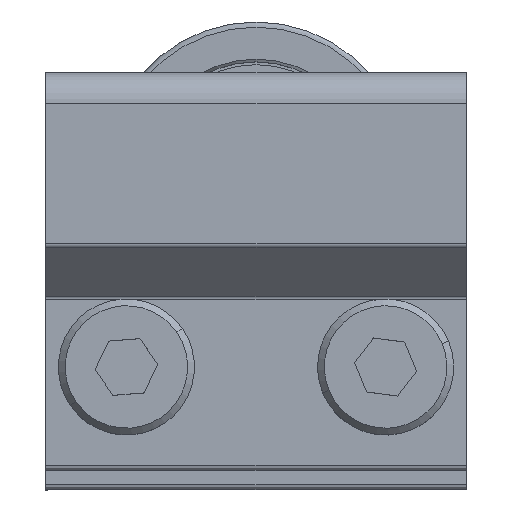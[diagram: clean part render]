
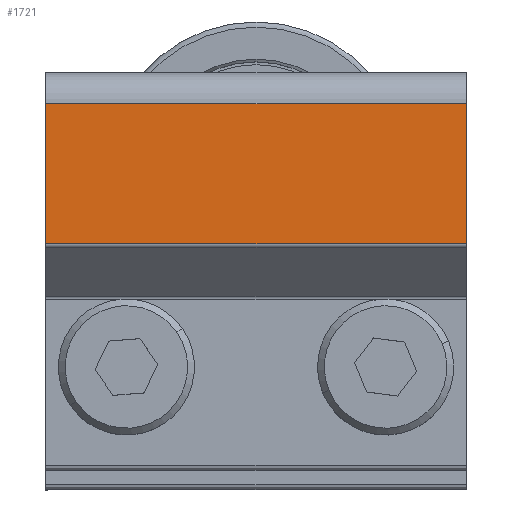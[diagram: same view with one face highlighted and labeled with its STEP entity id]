
A CAD part, top view. The second image highlights one B-rep face of the part: STEP entity #1721.
In plain terms, the highlighted planar face has unit normal (0, 0, 1) as drawn and (1, 0, 0) by its records, which use the part's own axes.
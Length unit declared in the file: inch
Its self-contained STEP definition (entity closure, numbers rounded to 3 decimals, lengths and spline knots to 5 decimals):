
#1217=DIRECTION('',(0.,0.,-1.));
#1218=VECTOR('',#1217,1.216);
#1219=CARTESIAN_POINT('',(0.375,0.763,0.608));
#1220=LINE('',#1219,#1218);
#1225=DIRECTION('',(0.,-1.,0.));
#1226=VECTOR('',#1225,0.40379);
#1227=CARTESIAN_POINT('',(0.375,0.763,-0.608));
#1228=LINE('',#1227,#1226);
#1306=DIRECTION('',(0.,-1.,0.));
#1307=VECTOR('',#1306,0.40379);
#1308=CARTESIAN_POINT('',(0.375,0.763,0.608));
#1309=LINE('',#1308,#1307);
#1375=DIRECTION('',(0.,0.,1.));
#1376=VECTOR('',#1375,1.216);
#1377=CARTESIAN_POINT('',(0.375,0.35921,-0.608));
#1378=LINE('',#1377,#1376);
#1565=CARTESIAN_POINT('',(0.375,0.763,0.608));
#1566=CARTESIAN_POINT('',(0.375,0.35921,0.608));
#1567=VERTEX_POINT('',#1565);
#1568=VERTEX_POINT('',#1566);
#1608=CARTESIAN_POINT('',(0.375,0.763,-0.608));
#1610=VERTEX_POINT('',#1608);
#1639=CARTESIAN_POINT('',(0.375,0.35921,-0.608));
#1640=VERTEX_POINT('',#1639);
#1708=CARTESIAN_POINT('',(0.375,0.763,0.608));
#1709=DIRECTION('',(-1.,0.,0.));
#1710=DIRECTION('',(0.,-1.,0.));
#1711=AXIS2_PLACEMENT_3D('',#1708,#1709,#1710);
#1712=PLANE('',#1711);
#1714=ORIENTED_EDGE('',*,*,#1713,.F.);
#1715=ORIENTED_EDGE('',*,*,#1650,.T.);
#1716=ORIENTED_EDGE('',*,*,#1664,.T.);
#1718=ORIENTED_EDGE('',*,*,#1717,.T.);
#1719=EDGE_LOOP('',(#1714,#1715,#1716,#1718));
#1720=FACE_OUTER_BOUND('',#1719,.F.);
#1650=EDGE_CURVE('',#1567,#1610,#1220,.T.);
#1664=EDGE_CURVE('',#1610,#1640,#1228,.T.);
#1713=EDGE_CURVE('',#1567,#1568,#1309,.T.);
#1717=EDGE_CURVE('',#1640,#1568,#1378,.T.);
#1721=ADVANCED_FACE('',(#1720),#1712,.F.);
